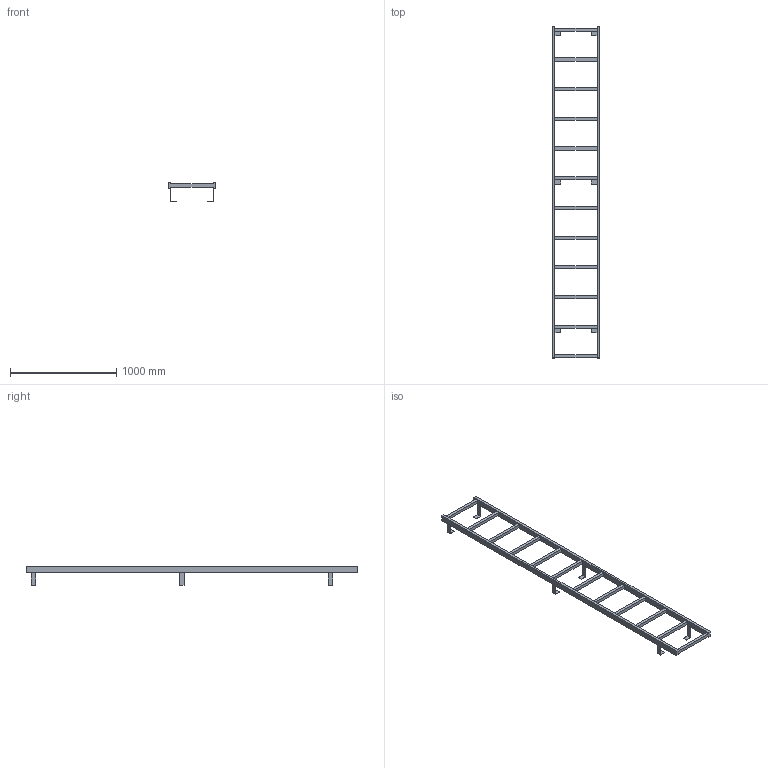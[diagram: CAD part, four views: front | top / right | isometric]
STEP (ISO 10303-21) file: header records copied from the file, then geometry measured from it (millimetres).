
FILE_DESCRIPTION((''),'2;1');
FILE_NAME('52311092','2024-10-17T13:21:44',('wep'),('HUBER SE'),'CREO PARAMETRIC BY PTC INC, 2022162','CREO PARAMETRIC BY PTC INC, 2022162','');
FILE_SCHEMA(('AUTOMOTIVE_DESIGN { 1 0 10303 214 1 1 1 1 }'));
Length unit declared in the file: millimetre
Products named in the file (1): 52311092
Bounding box: 450 x 3130 x 178.5 mm (x, y, z)
Volume: 13337940 mm3; surface area: 1675972 mm2
Topology: 1 solids, 1 shells, 106 faces, 312 edges, 202 vertices
Faces by surface type: plane 106
Entity records: 4045 total; most frequent: ORIENTED_EDGE 624, CARTESIAN_POINT 622, DIRECTION 524, VECTOR 312, LINE 312, EDGE_CURVE 312, VERTEX_POINT 202, EDGE_LOOP 122
